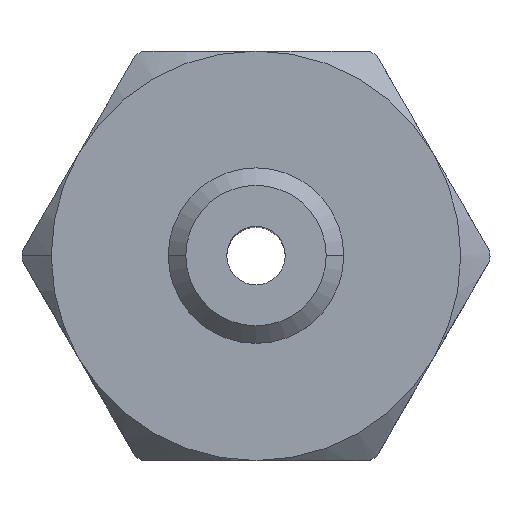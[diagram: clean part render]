
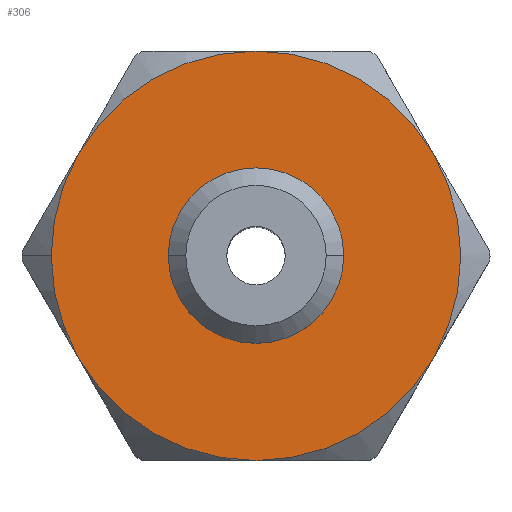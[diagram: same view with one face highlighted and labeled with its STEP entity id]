
A CAD part, top view. The second image highlights one B-rep face of the part: STEP entity #306.
In plain terms, the highlighted planar face has unit normal (0, 0, 1).
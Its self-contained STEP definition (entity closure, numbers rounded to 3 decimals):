
#5 = DIRECTION ( 'NONE',  ( 0., 0., 1. ) ) ;
#33 = AXIS2_PLACEMENT_3D ( 'NONE', #339, #5, #323 ) ;
#46 = CARTESIAN_POINT ( 'NONE',  ( 3.031, -1.75, 8. ) ) ;
#62 = EDGE_CURVE ( 'NONE', #759, #1219, #2260, .T. ) ;
#70 = CARTESIAN_POINT ( 'NONE',  ( -3.5, 0., 8. ) ) ;
#96 = EDGE_CURVE ( 'NONE', #2086, #1692, #1598, .T. ) ;
#133 = CARTESIAN_POINT ( 'NONE',  ( 0., 0., 8. ) ) ;
#139 = DIRECTION ( 'NONE',  ( -1., 0., 0. ) ) ;
#163 = DIRECTION ( 'NONE',  ( 0., 0., -1. ) ) ;
#183 = PLANE ( 'NONE',  #1062 ) ;
#205 = AXIS2_PLACEMENT_3D ( 'NONE', #1497, #2223, #634 ) ;
#306 = ADVANCED_FACE ( 'NONE', ( #865, #1213 ), #183, .F. ) ;
#309 = AXIS2_PLACEMENT_3D ( 'NONE', #741, #1459, #1786 ) ;
#323 = DIRECTION ( 'NONE',  ( -1., 0., 0. ) ) ;
#339 = CARTESIAN_POINT ( 'NONE',  ( 0., 0., 8. ) ) ;
#345 = CARTESIAN_POINT ( 'NONE',  ( 0., 0., 8. ) ) ;
#357 = DIRECTION ( 'NONE',  ( -1., 0., 0. ) ) ;
#363 = CIRCLE ( 'NONE', #872, 3.5 ) ;
#365 = ORIENTED_EDGE ( 'NONE', *, *, #2139, .T. ) ;
#374 = CARTESIAN_POINT ( 'NONE',  ( 1., 0., 8. ) ) ;
#452 = DIRECTION ( 'NONE',  ( -1., 0., 0. ) ) ;
#480 = DIRECTION ( 'NONE',  ( 0., 0., 1. ) ) ;
#528 = DIRECTION ( 'NONE',  ( 0., 0., 1. ) ) ;
#634 = DIRECTION ( 'NONE',  ( -1., 0., 0. ) ) ;
#686 = VERTEX_POINT ( 'NONE', #70 ) ;
#699 = AXIS2_PLACEMENT_3D ( 'NONE', #710, #1362, #357 ) ;
#710 = CARTESIAN_POINT ( 'NONE',  ( 0., 0., 8. ) ) ;
#741 = CARTESIAN_POINT ( 'NONE',  ( 0., 0., 8. ) ) ;
#759 = VERTEX_POINT ( 'NONE', #985 ) ;
#760 = CARTESIAN_POINT ( 'NONE',  ( 3.031, 1.75, 8. ) ) ;
#761 = EDGE_CURVE ( 'NONE', #1041, #1868, #2063, .T. ) ;
#776 = VERTEX_POINT ( 'NONE', #760 ) ;
#863 = EDGE_CURVE ( 'NONE', #1643, #2086, #896, .T. ) ;
#865 = FACE_OUTER_BOUND ( 'NONE', #966, .T. ) ;
#872 = AXIS2_PLACEMENT_3D ( 'NONE', #2099, #528, #1875 ) ;
#896 = CIRCLE ( 'NONE', #205, 3.5 ) ;
#906 = AXIS2_PLACEMENT_3D ( 'NONE', #133, #480, #1531 ) ;
#948 = CIRCLE ( 'NONE', #1215, 1. ) ;
#966 = EDGE_LOOP ( 'NONE', ( #2035, #1302, #1876, #1182, #1303, #365, #1278 ) ) ;
#972 = CARTESIAN_POINT ( 'NONE',  ( 0., 0., 8. ) ) ;
#985 = CARTESIAN_POINT ( 'NONE',  ( 0., 3.5, 8. ) ) ;
#1041 = VERTEX_POINT ( 'NONE', #1971 ) ;
#1060 = CARTESIAN_POINT ( 'NONE',  ( -3.031, -1.75, 8. ) ) ;
#1062 = AXIS2_PLACEMENT_3D ( 'NONE', #374, #1383, #1232 ) ;
#1078 = AXIS2_PLACEMENT_3D ( 'NONE', #972, #1874, #1333 ) ;
#1112 = ORIENTED_EDGE ( 'NONE', *, *, #761, .T. ) ;
#1133 = EDGE_CURVE ( 'NONE', #776, #759, #1476, .T. ) ;
#1140 = CARTESIAN_POINT ( 'NONE',  ( -1., 0., 8. ) ) ;
#1174 = DIRECTION ( 'NONE',  ( 0., 0., 1. ) ) ;
#1182 = ORIENTED_EDGE ( 'NONE', *, *, #1133, .T. ) ;
#1193 = CARTESIAN_POINT ( 'NONE',  ( 0., -3.5, 8. ) ) ;
#1213 = FACE_BOUND ( 'NONE', #2245, .T. ) ;
#1215 = AXIS2_PLACEMENT_3D ( 'NONE', #345, #163, #139 ) ;
#1219 = VERTEX_POINT ( 'NONE', #1608 ) ;
#1232 = DIRECTION ( 'NONE',  ( -1., 0., 0. ) ) ;
#1278 = ORIENTED_EDGE ( 'NONE', *, *, #1352, .T. ) ;
#1302 = ORIENTED_EDGE ( 'NONE', *, *, #96, .T. ) ;
#1303 = ORIENTED_EDGE ( 'NONE', *, *, #62, .T. ) ;
#1333 = DIRECTION ( 'NONE',  ( -1., 0., 0. ) ) ;
#1352 = EDGE_CURVE ( 'NONE', #686, #1643, #1398, .T. ) ;
#1362 = DIRECTION ( 'NONE',  ( 0., 0., 1. ) ) ;
#1383 = DIRECTION ( 'NONE',  ( 0., 0., -1. ) ) ;
#1398 = CIRCLE ( 'NONE', #2094, 3.5 ) ;
#1459 = DIRECTION ( 'NONE',  ( 0., 0., 1. ) ) ;
#1476 = CIRCLE ( 'NONE', #309, 3.5 ) ;
#1497 = CARTESIAN_POINT ( 'NONE',  ( 0., 0., 8. ) ) ;
#1531 = DIRECTION ( 'NONE',  ( -1., 0., 0. ) ) ;
#1558 = EDGE_CURVE ( 'NONE', #1868, #1041, #948, .T. ) ;
#1598 = CIRCLE ( 'NONE', #906, 3.5 ) ;
#1603 = EDGE_CURVE ( 'NONE', #1692, #776, #363, .T. ) ;
#1608 = CARTESIAN_POINT ( 'NONE',  ( -3.031, 1.75, 8. ) ) ;
#1643 = VERTEX_POINT ( 'NONE', #1060 ) ;
#1692 = VERTEX_POINT ( 'NONE', #46 ) ;
#1786 = DIRECTION ( 'NONE',  ( -1., 0., 0. ) ) ;
#1818 = ORIENTED_EDGE ( 'NONE', *, *, #1558, .T. ) ;
#1868 = VERTEX_POINT ( 'NONE', #1140 ) ;
#1874 = DIRECTION ( 'NONE',  ( 0., 0., -1. ) ) ;
#1875 = DIRECTION ( 'NONE',  ( -1., 0., 0. ) ) ;
#1876 = ORIENTED_EDGE ( 'NONE', *, *, #1603, .T. ) ;
#1971 = CARTESIAN_POINT ( 'NONE',  ( 1., 0., 8. ) ) ;
#2035 = ORIENTED_EDGE ( 'NONE', *, *, #863, .T. ) ;
#2063 = CIRCLE ( 'NONE', #1078, 1. ) ;
#2086 = VERTEX_POINT ( 'NONE', #1193 ) ;
#2094 = AXIS2_PLACEMENT_3D ( 'NONE', #2193, #1174, #452 ) ;
#2099 = CARTESIAN_POINT ( 'NONE',  ( 0., 0., 8. ) ) ;
#2139 = EDGE_CURVE ( 'NONE', #1219, #686, #2157, .T. ) ;
#2157 = CIRCLE ( 'NONE', #699, 3.5 ) ;
#2193 = CARTESIAN_POINT ( 'NONE',  ( 0., 0., 8. ) ) ;
#2223 = DIRECTION ( 'NONE',  ( 0., 0., 1. ) ) ;
#2245 = EDGE_LOOP ( 'NONE', ( #1818, #1112 ) ) ;
#2260 = CIRCLE ( 'NONE', #33, 3.5 ) ;
